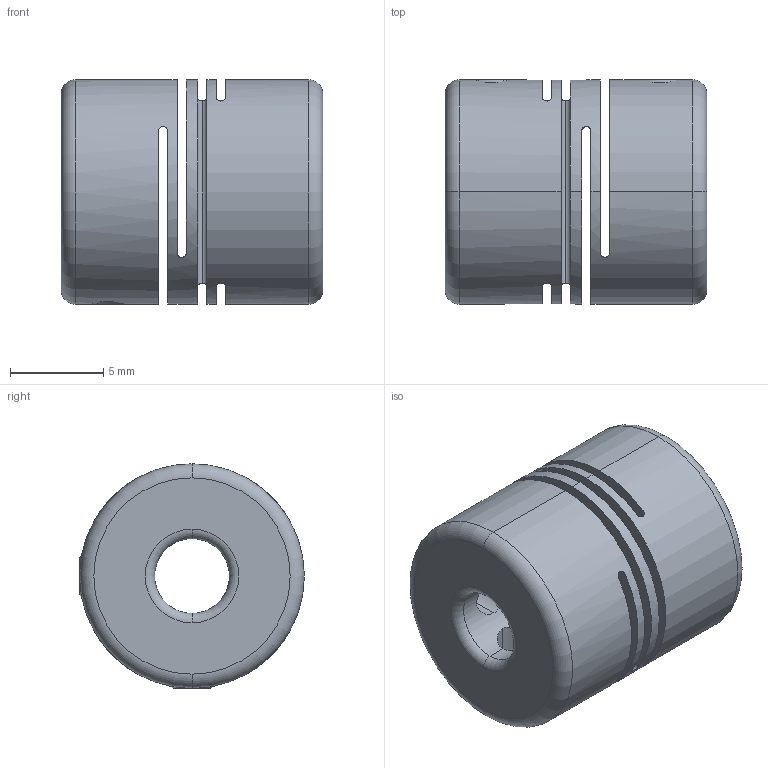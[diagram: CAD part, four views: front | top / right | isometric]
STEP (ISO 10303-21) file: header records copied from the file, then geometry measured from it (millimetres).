
FILE_DESCRIPTION (( 'STEP AP203' ), '1' );
FILE_NAME ('FSMMS12-4x4.STEP', '2014-01-03T05:35:19', ( '123' ), ( '' ), 'SwSTEP 2.0', 'SolidWorks 2013', '' );
FILE_SCHEMA (( 'CONFIG_CONTROL_DESIGN' ));
Length unit declared in the file: millimetre
Products named in the file (1): FSMMS12-4x4
Bounding box: 14 x 12 x 12 mm (x, y, z)
Surface area: 1540.6 mm2 (no closed solid volume)
Topology: 0 solids, 4 shells, 69 faces, 200 edges, 134 vertices
Faces by surface type: plane 31, cylinder 24, torus 8, cone 6
Entity records: 2606 total; most frequent: CARTESIAN_POINT 694, DIRECTION 382, ORIENTED_EDGE 364, EDGE_CURVE 200, AXIS2_PLACEMENT_3D 144, VERTEX_POINT 134, VECTOR 94, LINE 94
